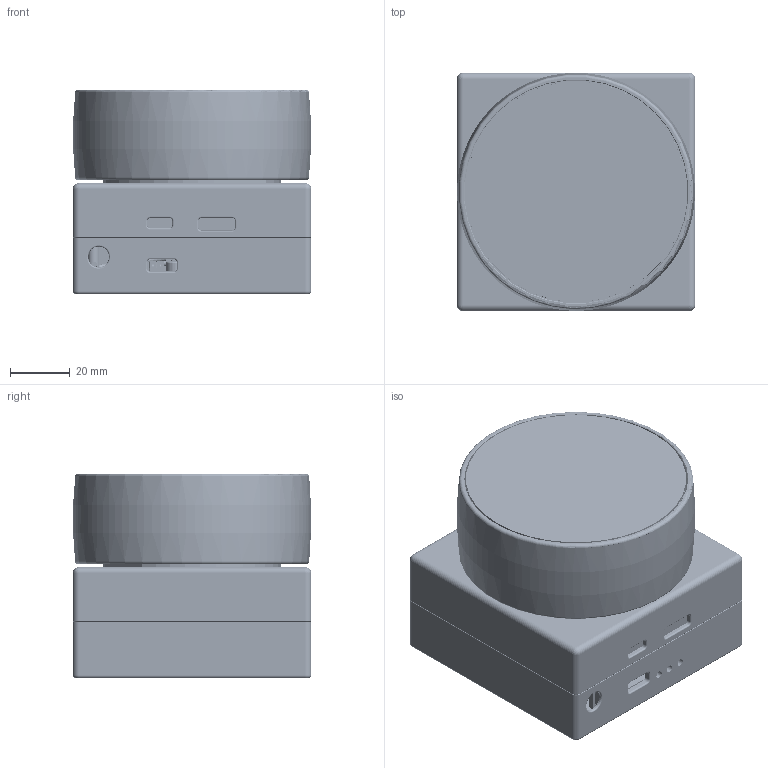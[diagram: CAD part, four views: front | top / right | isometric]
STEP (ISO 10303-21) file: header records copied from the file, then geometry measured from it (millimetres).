
FILE_DESCRIPTION(('Creo Elements/Direct Modeling STEP Export'),'2;1');
FILE_NAME('Dev. Kit Smart Knob HAPTICORE One incl. Touch-Display.stp','2024-11-06T13:05:08',(''),(''),'Creo Elements/Direct Modeling STEP processor for AP214 (Solid Model)','Creo Elements/Direct Modeling 20.3C 12-Jun-2021 (C) Parametric Technology GmbH','');
FILE_SCHEMA(('AUTOMOTIVE_DESIGN { 1 0 10303 214 1 1 1 1 }'));
Length unit declared in the file: millimetre
Products named in the file (93): _TSW-103-05-G-S_body; _T1SSW-103-02-G-D-RA; _T-1S6-21-TSW-1-05-3-S; _T-1S6-08-HTSW-1--08-3-RA-S; _P2SSW-103-02-G-D-RA; _LSS-30-02-A-_socket; _HTSW-103-08-L-S-RA_body; _C-185-30-02; Zahnkranz_m0.7_z90_3D_Druck_protiq; Stromkabel; Smart_Knob_Cradle_B0-2; Senkschraube_ISO_14581_M4x25.1; Senkschraube_ISO_14581_M4x25; Schraube_M_3x8_DIN_912_12.9.1.1; Schraube_M_3x8_DIN_912_12.9.1; Schraube_M_3x8_DIN_912_12.9; Schraube_M_3x6_DIN_912_12.9.1; Schraube_M_3x6_DIN_912_12.9; Schraube_M_3x12_DIN_912_12.9.2; Schraube_M_3x12_DIN_912_12.9.1; Schraube_M_3x12_DIN_912_12.9; Schraube_M_2x8_DIN_912_12.9.2; Schraube_M_2x8_DIN_912_12.9.1.1; Schraube_M_2x8_DIN_912_12.9.1; Schraube_M_2x8_DIN_912_12.9; Scheibe_3_DIN_7349; SKF_W 61811-2RS1_or; SKF_W 61811-2RS1_ir; PCBA_Screen; PCBA; Open CASCADE STEP translator 7.5 3.113.1.1; Open CASCADE STEP translator 7.5 3.1.1; Open CASCADE STEP translator 6.8 1.4.1.1; Open CASCADE STEP translator 6.8 1.1.1; Mutter_M_4_DIN_934.1; Mutter_M_4_DIN_934; Klebefolie.1; Gehäuse_unten_V3; Gehäuse_oben_V3; Displayhalter_BV02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
Assembly tree (53 placements, depth 2):
  _TSW-103-05-G-S_body
    _TSW-103-05-G-S_body
  _T1SSW-103-02-G-D-RA
    _T1SSW-103-02-G-D-RA
  _T-1S6-21-TSW-1-05-3-S
    _T-1S6-21-TSW-1-05-3-S
  _T-1S6-08-HTSW-1--08-3-RA-S
    _T-1S6-08-HTSW-1--08-3-RA-S
  _P2SSW-103-02-G-D-RA
    _P2SSW-103-02-G-D-RA
Bounding box: 80 x 80 x 68.65 mm (x, y, z)
Volume: 171526 mm3; surface area: 169790.6 mm2
Topology: 75 solids, 78 shells, 10669 faces, 29317 edges, 18552 vertices
Faces by surface type: plane 5079, cylinder 3358, bspline 1156, torus 567, cone 280, sphere 146, extrusion 83
Entity records: 569168 total; most frequent: CARTESIAN_POINT 302731, ORIENTED_EDGE 56924, DIRECTION 47764, EDGE_CURVE 28435, VERTEX_POINT 18138, VECTOR 17144, LINE 17063, AXIS2_PLACEMENT_3D 15310
